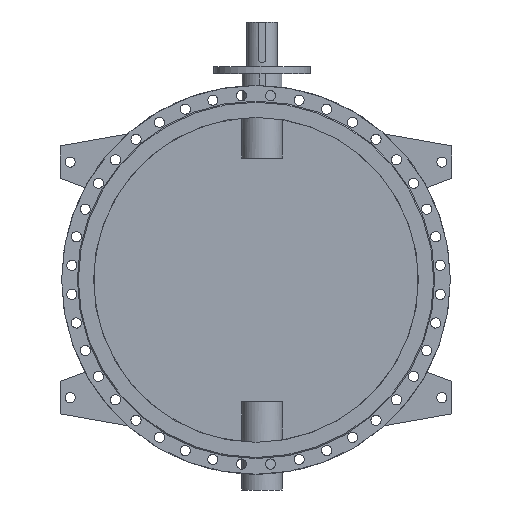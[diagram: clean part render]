
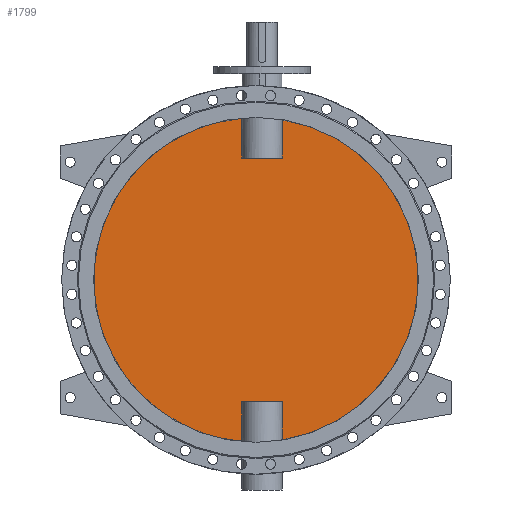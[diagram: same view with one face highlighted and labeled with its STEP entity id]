
A CAD part, front view. The second image highlights one B-rep face of the part: STEP entity #1799.
In plain terms, the highlighted planar face has unit normal (0, -1, 0).
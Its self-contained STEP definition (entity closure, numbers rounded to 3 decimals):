
#1799=ADVANCED_FACE('',(#3903),#3905,.F.);
#3903=FACE_BOUND('',#3904,.T.);
#3904=EDGE_LOOP('',(#4891,#4892,#4893,#4894,#4895,#4896,#4897,#4898));
#3905=PLANE('',#3906);
#3906=AXIS2_PLACEMENT_3D('',#3907,#3908,#3909);
#3907=CARTESIAN_POINT('',(0.,-5.,0.));
#3908=DIRECTION('',(0.,1.,0.));
#3909=DIRECTION('',(1.,0.,0.));
#4891=ORIENTED_EDGE('',*,*,#5391,.T.);
#4892=ORIENTED_EDGE('',*,*,#5405,.T.);
#4893=ORIENTED_EDGE('',*,*,#5406,.T.);
#4894=ORIENTED_EDGE('',*,*,#5407,.T.);
#4895=ORIENTED_EDGE('',*,*,#5393,.T.);
#4896=ORIENTED_EDGE('',*,*,#5408,.T.);
#4897=ORIENTED_EDGE('',*,*,#5409,.T.);
#4898=ORIENTED_EDGE('',*,*,#5410,.T.);
#5391=EDGE_CURVE('',#6229,#6230,#6231,.F.);
#5393=EDGE_CURVE('',#6234,#6232,#6235,.F.);
#5405=EDGE_CURVE('',#6230,#6257,#6258,.T.);
#5406=EDGE_CURVE('',#6257,#6259,#6260,.F.);
#5407=EDGE_CURVE('',#6259,#6234,#6261,.F.);
#5408=EDGE_CURVE('',#6232,#6262,#6263,.F.);
#5409=EDGE_CURVE('',#6262,#6264,#6265,.F.);
#5410=EDGE_CURVE('',#6264,#6229,#6266,.T.);
#6229=VERTEX_POINT('',#8900);
#6230=VERTEX_POINT('',#8901);
#6231=CIRCLE('',#8902,800.);
#6232=VERTEX_POINT('',#8906);
#6234=VERTEX_POINT('',#9005);
#6235=CIRCLE('',#9006,800.);
#6257=VERTEX_POINT('',#9377);
#6258=LINE('',#9378,#9379);
#6259=VERTEX_POINT('',#9381);
#6260=LINE('',#9382,#9383);
#6261=LINE('',#9385,#9386);
#6262=VERTEX_POINT('',#9388);
#6263=LINE('',#9389,#9390);
#6264=VERTEX_POINT('',#9392);
#6265=LINE('',#9393,#9394);
#6266=LINE('',#9396,#9397);
#8900=CARTESIAN_POINT('',(129.875,-5.,-789.387));
#8901=CARTESIAN_POINT('',(129.875,-5.,789.387));
#8902=AXIS2_PLACEMENT_3D('',#8903,#8904,#8905);
#8903=CARTESIAN_POINT('',(0.,-5.,0.));
#8904=DIRECTION('',(0.,1.,0.));
#8905=DIRECTION('',(0.162,0.,0.987));
#8906=CARTESIAN_POINT('',(-69.875,-5.,-796.943));
#9005=CARTESIAN_POINT('',(-69.875,-5.,796.943));
#9006=AXIS2_PLACEMENT_3D('',#9007,#9008,#9009);
#9007=CARTESIAN_POINT('',(0.,-5.,0.));
#9008=DIRECTION('',(0.,1.,0.));
#9009=DIRECTION('',(-0.087,0.,-0.996));
#9377=CARTESIAN_POINT('',(129.875,-5.,600.));
#9378=CARTESIAN_POINT('',(129.875,-5.,789.387));
#9379=VECTOR('',#9380,1.);
#9380=DIRECTION('',(0.,0.,-1.));
#9381=CARTESIAN_POINT('',(-69.875,-5.,600.));
#9382=CARTESIAN_POINT('',(-69.875,-5.,600.));
#9383=VECTOR('',#9384,1.);
#9384=DIRECTION('',(1.,0.,0.));
#9385=CARTESIAN_POINT('',(-69.875,-5.,796.943));
#9386=VECTOR('',#9387,1.);
#9387=DIRECTION('',(0.,0.,-1.));
#9388=CARTESIAN_POINT('',(-69.875,-5.,-600.));
#9389=CARTESIAN_POINT('',(-69.875,-5.,-600.));
#9390=VECTOR('',#9391,1.);
#9391=DIRECTION('',(0.,0.,-1.));
#9392=CARTESIAN_POINT('',(129.875,-5.,-600.));
#9393=CARTESIAN_POINT('',(129.875,-5.,-600.));
#9394=VECTOR('',#9395,1.);
#9395=DIRECTION('',(-1.,0.,0.));
#9396=CARTESIAN_POINT('',(129.875,-5.,-600.));
#9397=VECTOR('',#9398,1.);
#9398=DIRECTION('',(0.,0.,-1.));
